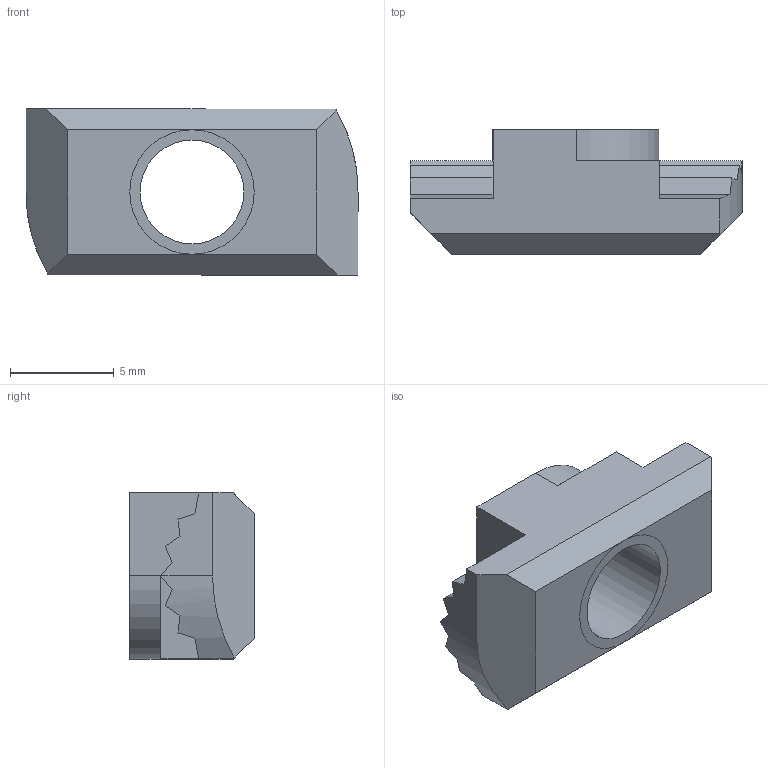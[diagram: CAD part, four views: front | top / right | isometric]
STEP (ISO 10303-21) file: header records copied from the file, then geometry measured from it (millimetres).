
FILE_DESCRIPTION (( 'STEP AP203' ), '1' );
FILE_NAME ('20171_NUTSTM6.STEP', '2018-05-24T11:23:18', ( '' ), ( '' ), 'SwSTEP 2.0', 'SolidWorks 2017', '' );
FILE_SCHEMA (( 'CONFIG_CONTROL_DESIGN' ));
Length unit declared in the file: millimetre
Products named in the file (1): 20171_NUTSTM6
Bounding box: 16 x 6 x 8 mm (x, y, z)
Surface area: 624.8 mm2 (no closed solid volume)
Topology: 0 solids, 2 shells, 48 faces, 130 edges, 84 vertices
Faces by surface type: plane 40, cylinder 8
Entity records: 1560 total; most frequent: CARTESIAN_POINT 311, ORIENTED_EDGE 256, DIRECTION 224, EDGE_CURVE 130, VECTOR 102, LINE 102, VERTEX_POINT 84, AXIS2_PLACEMENT_3D 61
